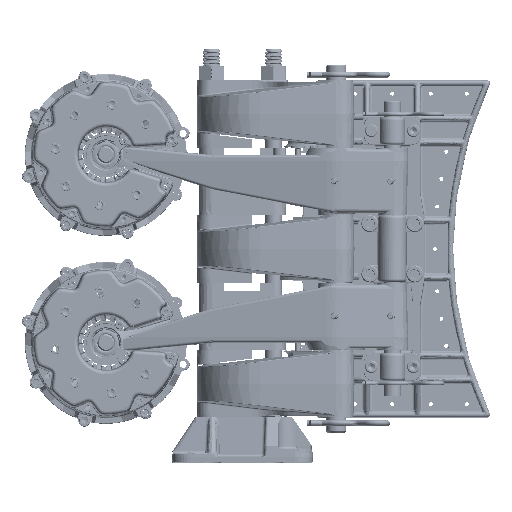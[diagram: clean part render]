
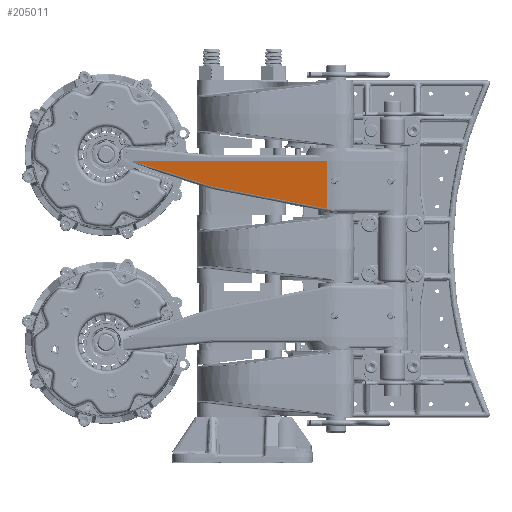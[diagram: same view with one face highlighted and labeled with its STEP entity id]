
A CAD part, top view. The second image highlights one B-rep face of the part: STEP entity #205011.
In plain terms, the highlighted planar face has unit normal (-0.159, -0.035, 0.987).
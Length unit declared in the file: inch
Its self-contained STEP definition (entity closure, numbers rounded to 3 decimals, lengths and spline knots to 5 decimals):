
#194 = CARTESIAN_POINT ( 'NONE',  ( 1.39403, 3.9055, 5.47154 ) ) ;
#15191 = CARTESIAN_POINT ( 'NONE',  ( -7.46348, 3.90153, 4.0453 ) ) ;
#21317 = DIRECTION ( 'NONE',  ( 0.971, -0.188, 0.15 ) ) ;
#23583 = CARTESIAN_POINT ( 'NONE',  ( 1.18766, 1.77928, 5.36311 ) ) ;
#29891 = VERTEX_POINT ( 'NONE', #207510 ) ;
#36698 = VERTEX_POINT ( 'NONE', #23583 ) ;
#44020 = DIRECTION ( 'NONE',  ( 0.943, -0.302, 0.141 ) ) ;
#61920 = CARTESIAN_POINT ( 'NONE',  ( 1.39403, 3.9055, 5.47154 ) ) ;
#74093 = EDGE_CURVE ( 'NONE', #178687, #36698, #357825, .T. ) ;
#82702 = ORIENTED_EDGE ( 'NONE', *, *, #302384, .T. ) ;
#96839 = EDGE_CURVE ( 'NONE', #291233, #172198, #174932, .T. ) ;
#103403 =( BOUNDED_CURVE ( )  B_SPLINE_CURVE ( 3, ( #296409, #272215, #338569, #141405 ),
 .UNSPECIFIED., .F., .F. ) 
 B_SPLINE_CURVE_WITH_KNOTS ( ( 4, 4 ),
 ( 3.07502, 3.14158 ),
 .UNSPECIFIED. ) 
 CURVE ( )  GEOMETRIC_REPRESENTATION_ITEM ( )  RATIONAL_B_SPLINE_CURVE ( ( 1., 1., 1., 1. ) ) 
 REPRESENTATION_ITEM ( '' )  );
#104790 = CARTESIAN_POINT ( 'NONE',  ( -3.86006, 2.75723, 4.58499 ) ) ;
#115364 = EDGE_LOOP ( 'NONE', ( #404105, #82702, #262473, #117612, #370340, #268747 ) ) ;
#117612 = ORIENTED_EDGE ( 'NONE', *, *, #261952, .T. ) ;
#140889 = AXIS2_PLACEMENT_3D ( 'NONE', #61920, #364074, #196972 ) ;
#141405 = CARTESIAN_POINT ( 'NONE',  ( -7.46348, 3.90153, 4.0453 ) ) ;
#149056 = CARTESIAN_POINT ( 'NONE',  ( 0.59839, 1.31908, 5.25196 ) ) ;
#149366 = VECTOR ( 'NONE', #241926, 39.37008 ) ;
#172198 = VERTEX_POINT ( 'NONE', #310792 ) ;
#174932 = LINE ( 'NONE', #149056, #264235 ) ;
#178687 = VERTEX_POINT ( 'NONE', #104790 ) ;
#196870 = CARTESIAN_POINT ( 'NONE',  ( -3.86006, 2.75723, 4.58499 ) ) ;
#196972 = DIRECTION ( 'NONE',  ( -0.987, 0., -0.159 ) ) ;
#205011 = ADVANCED_FACE ( 'NONE', ( #216551 ), #214437, .T. ) ;
#207510 = CARTESIAN_POINT ( 'NONE',  ( 1.17586, 3.9055, 5.43642 ) ) ;
#214437 = PLANE ( 'NONE',  #140889 ) ;
#216551 = FACE_OUTER_BOUND ( 'NONE', #115364, .T. ) ;
#224598 = VERTEX_POINT ( 'NONE', #348136 ) ;
#236143 = EDGE_CURVE ( 'NONE', #36698, #29891, #275379, .T. ) ;
#241926 = DIRECTION ( 'NONE',  ( 0.987, 0., 0.159 ) ) ;
#249790 = EDGE_CURVE ( 'NONE', #224598, #29891, #340281, .T. ) ;
#259174 = CARTESIAN_POINT ( 'NONE',  ( -3.96445, 2.78069, 4.56902 ) ) ;
#261952 = EDGE_CURVE ( 'NONE', #172198, #178687, #381943, .T. ) ;
#262473 = ORIENTED_EDGE ( 'NONE', *, *, #96839, .T. ) ;
#263395 = CARTESIAN_POINT ( 'NONE',  ( -3.91259, 2.76741, 4.5769 ) ) ;
#264235 = VECTOR ( 'NONE', #44020, 39.37008 ) ;
#268747 = ORIENTED_EDGE ( 'NONE', *, *, #236143, .T. ) ;
#272215 = CARTESIAN_POINT ( 'NONE',  ( -7.45772, 3.9055, 4.04637 ) ) ;
#275379 = LINE ( 'NONE', #406124, #301211 ) ;
#291233 = VERTEX_POINT ( 'NONE', #15191 ) ;
#295878 = DIRECTION ( 'NONE',  ( -0.006, 0.999, 0.034 ) ) ;
#296409 = CARTESIAN_POINT ( 'NONE',  ( -7.44865, 3.9055, 4.04783 ) ) ;
#301211 = VECTOR ( 'NONE', #295878, 39.37008 ) ;
#302384 = EDGE_CURVE ( 'NONE', #224598, #291233, #103403, .T. ) ;
#310792 = CARTESIAN_POINT ( 'NONE',  ( -4.01546, 2.79703, 4.56138 ) ) ;
#314995 = CARTESIAN_POINT ( 'NONE',  ( 1.00971, 1.81375, 5.33568 ) ) ;
#338569 = CARTESIAN_POINT ( 'NONE',  ( -7.46267, 3.90418, 4.04553 ) ) ;
#340281 = LINE ( 'NONE', #194, #149366 ) ;
#348136 = CARTESIAN_POINT ( 'NONE',  ( -7.44865, 3.9055, 4.04783 ) ) ;
#349903 = VECTOR ( 'NONE', #21317, 39.37008 ) ;
#357825 = LINE ( 'NONE', #314995, #349903 ) ;
#364074 = DIRECTION ( 'NONE',  ( -0.159, -0.035, 0.987 ) ) ;
#370340 = ORIENTED_EDGE ( 'NONE', *, *, #74093, .T. ) ;
#381943 =( BOUNDED_CURVE ( )  B_SPLINE_CURVE ( 3, ( #424073, #259174, #263395, #196870 ),
 .UNSPECIFIED., .F., .T. ) 
 B_SPLINE_CURVE_WITH_KNOTS ( ( 4, 4 ),
 ( 3.96129, 4.07904 ),
 .UNSPECIFIED. ) 
 CURVE ( )  GEOMETRIC_REPRESENTATION_ITEM ( )  RATIONAL_B_SPLINE_CURVE ( ( 1., 0.999, 0.999, 1. ) ) 
 REPRESENTATION_ITEM ( '' )  );
#404105 = ORIENTED_EDGE ( 'NONE', *, *, #249790, .F. ) ;
#406124 = CARTESIAN_POINT ( 'NONE',  ( 1.17586, 3.9055, 5.43642 ) ) ;
#424073 = CARTESIAN_POINT ( 'NONE',  ( -4.01546, 2.79703, 4.56138 ) ) ;
